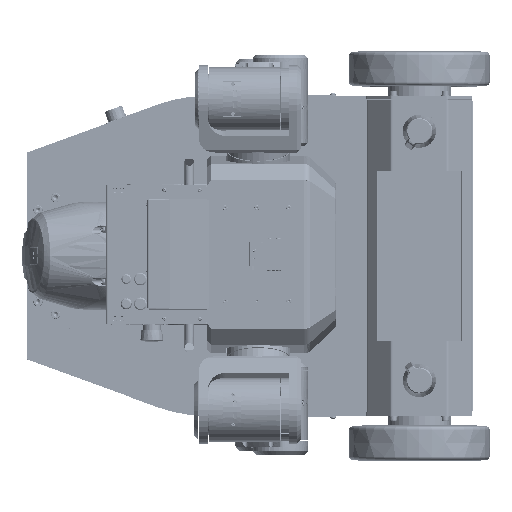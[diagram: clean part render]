
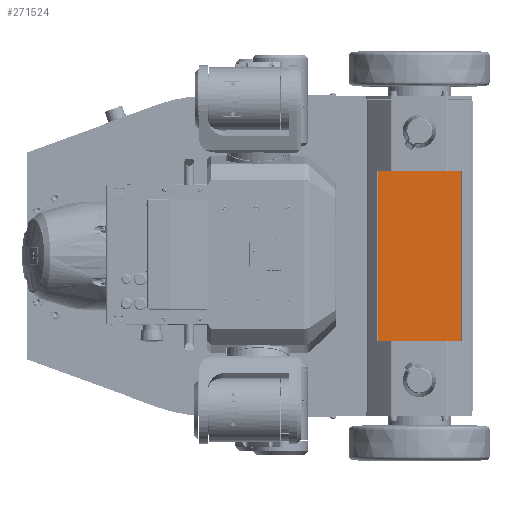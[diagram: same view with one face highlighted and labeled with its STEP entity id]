
A CAD part, top view. The second image highlights one B-rep face of the part: STEP entity #271524.
In plain terms, the highlighted planar face has unit normal (0, 0, 1).
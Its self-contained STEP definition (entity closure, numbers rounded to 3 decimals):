
#12432=PLANE('',#290706);
#22688=FACE_OUTER_BOUND('',#38604,.T.);
#38604=EDGE_LOOP('',(#183508,#183509,#183510,#183511));
#54666=LINE('',#429202,#75315);
#54667=LINE('',#429204,#75316);
#54682=LINE('',#429245,#75331);
#56642=LINE('',#442494,#77291);
#75315=VECTOR('',#317335,1.);
#75316=VECTOR('',#317338,1.);
#75331=VECTOR('',#317373,1.);
#77291=VECTOR('',#324399,1.);
#108635=VERTEX_POINT('',#429166);
#108640=VERTEX_POINT('',#429176);
#108643=VERTEX_POINT('',#429183);
#108644=VERTEX_POINT('',#429186);
#135184=EDGE_CURVE('',#108635,#108643,#54666,.T.);
#135185=EDGE_CURVE('',#108640,#108644,#54667,.T.);
#135206=EDGE_CURVE('',#108644,#108643,#54682,.T.);
#138851=EDGE_CURVE('',#108635,#108640,#56642,.T.);
#183508=ORIENTED_EDGE('',*,*,#135206,.F.);
#183509=ORIENTED_EDGE('',*,*,#135185,.F.);
#183510=ORIENTED_EDGE('',*,*,#138851,.F.);
#183511=ORIENTED_EDGE('',*,*,#135184,.T.);
#271524=ADVANCED_FACE('',(#22688),#12432,.F.);
#290706=AXIS2_PLACEMENT_3D('',#443035,#324537,#324538);
#317335=DIRECTION('',(0.,1.,0.));
#317338=DIRECTION('',(0.,1.,0.));
#317373=DIRECTION('',(1.,0.,0.));
#324399=DIRECTION('',(-1.,0.,0.));
#324537=DIRECTION('center_axis',(0.,0.,
-1.));
#324538=DIRECTION('ref_axis',(0.,-1.,0.));
#429166=CARTESIAN_POINT('',(534.149,-120.5,-89.349));
#429176=CARTESIAN_POINT('',(415.851,-120.5,-89.349));
#429183=CARTESIAN_POINT('',(534.148,120.5,-89.349));
#429186=CARTESIAN_POINT('',(415.852,120.5,-89.349));
#429202=CARTESIAN_POINT('',(534.149,-60.25,-89.349));
#429204=CARTESIAN_POINT('',(415.851,-60.25,-89.349));
#429245=CARTESIAN_POINT('',(474.999,120.5,-89.349));
#442494=CARTESIAN_POINT('',(474.999,-120.5,-89.349));
#443035=CARTESIAN_POINT('Origin',(474.999,0.,
-89.349));
